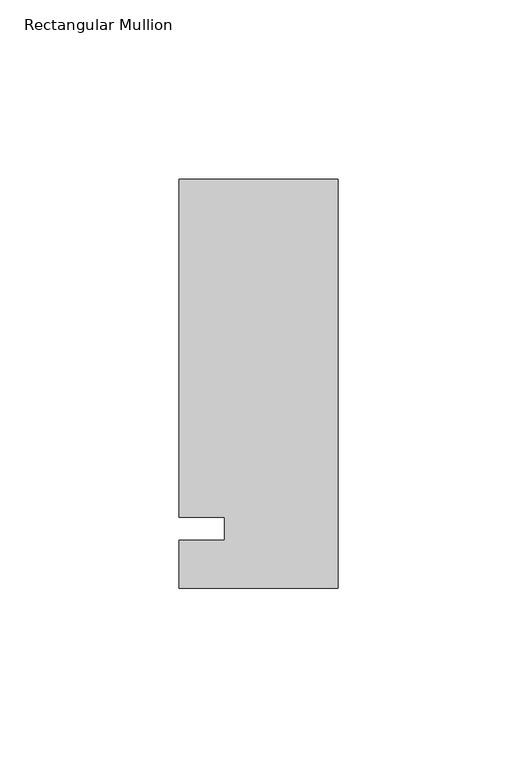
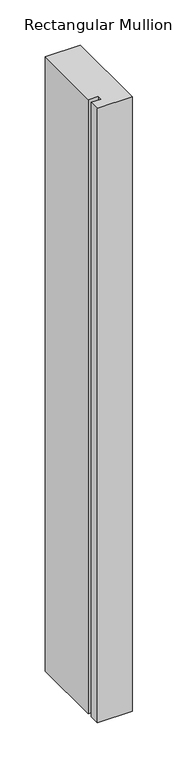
"""IFC4 building model written with IfcOpenShell, lengths in millimetres: member geometry, Rectangular Mullion : Kawneer-TRIFAB_VG_450_BACK_SB_Head."""

from ifc_helpers import new_model, si_unit, frame, origin, place, context, project, spatial, polyline, outline, extrude, source, transform, mapped, element, save


def rectangular_mullion_b831e8bf(model_context):
    return source(origin(), model_context, "Body", "SweptSolid", [
        extrude(outline(polyline([(-44.45, -16.66875), (-44.45, -3.175), (-31.7482296, -3.175), (-31.7482296, 3.175), (-44.45, 3.175), (-44.45, 97.63125), (0.0, 97.63125), (0.0, -16.66875), (-44.45, -16.66875)])), frame((0.0, 0.0, -826.3094133), z_axis=(0.0, 0.0, 1.0), x_axis=(1.0, 0.0, 0.0)), (0.0, 0.0, 1.0), 826.3094133),
    ])


if __name__ == "__main__":
    model = new_model("IFC4")
    model_context = context("Model", 3, world=origin())
    ifc_project = project(units=[si_unit("LENGTHUNIT", "METRE", prefix="MILLI")], contexts=[model_context])
    site = spatial("IfcSite", under=ifc_project)
    building = spatial("IfcBuilding", under=site)
    placement = place(None, origin())
    rectangular_mullion_shape = rectangular_mullion_b831e8bf(model_context)
    element("IfcMember", 1, ObjectType="Rectangular Mullion : Kawneer-TRIFAB_VG_450_BACK_SB_Head", at=placement, inside=building, context=model_context, shape_type="MappedRepresentation", body=[
        mapped(rectangular_mullion_shape, transform((0.0, 0.0, 0.0), x_axis=(1.0, 0.0, 0.0), y_axis=(0.0, 1.0, 0.0), z_axis=(0.0, 0.0, 1.0))),
    ])
    save(model, "model.ifc")
